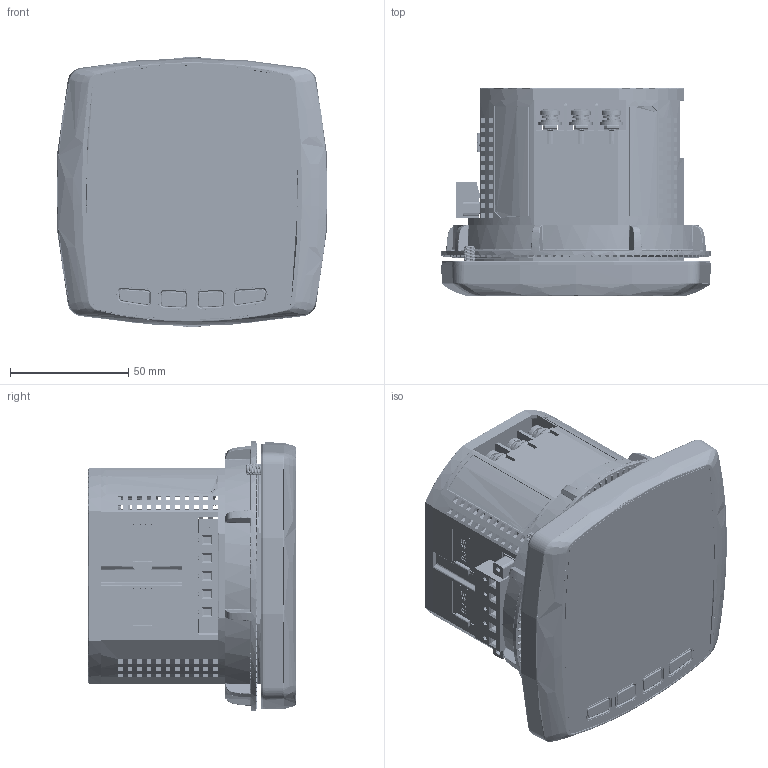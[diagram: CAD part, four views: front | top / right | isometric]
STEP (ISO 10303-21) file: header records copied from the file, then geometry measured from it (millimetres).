
FILE_DESCRIPTION(/* description */ (''),/* implementation_level */ '2;1');
FILE_NAME(/* name */ 'A70N4Y~S',/* time_stamp */ '2022-11-21T14:25:20+09:00',/* author */ (''),/* organization */ (''),/* preprocessor_version */ 'ST-DEVELOPER v15',/* originating_system */ '',/* authorisation */ '');
FILE_SCHEMA (('AUTOMOTIVE_DESIGN'));
Products named in the file (78): Document; Bracket; 블록 12; screw-3x6-flt; 블록 51; countersunk flat cross head screw_ks_KS 1023 FC- M3 x 8-N; 블록 33; Seal; 블록 34; Case-Cap Ass''y; Back-Sticker; 블록 36; Case-Cap; 블록 08; ANSI Boss; 블록 14; rubber-cap-rj45; 블록 10; Window Ass''y; Tape-Window(3M 4303WP, t=0.25mm); 블록 50; Window; 블록 05; binding cross head screw_ks_KS 1023 BC - M2 x 6-N; 블록 46; Case-Front1; Case-Front; 블록 39; insert-M3X7.9; 블록 47; Button Ass''y; Rubber-Button; 블록 52; Tape-Button(YT56CH,t=0.14mm); 블록 01; binding cross head screw_ks_KS 1023 BC - M2.6 x 5-N; 블록 03; screw-special-m4x09; 블록 31; 블록 32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
Assembly tree (119 placements, depth 4):
  Document
    Bracket
      블록 12
    screw-3x6-flt  x4
      블록 51
    countersunk flat cross head screw_ks_KS 1023 FC- M3 x 8-N  x2
      블록 33
    Seal
      블록 34
    Case-Cap Ass''y
      Back-Sticker
        블록 36
      Case-Cap
        블록 08
    ANSI Boss
      블록 14
    rubber-cap-rj45  x2
      블록 10
    Window Ass''y
      Tape-Window(3M 4303WP, t=0.25mm)
        블록 50
      Window
        블록 05
    binding cross head screw_ks_KS 1023 BC - M2 x 6-N  x2
      블록 46
    Case-Front1
      Case-Front
        블록 39
      insert-M3X7.9  x5
        블록 47
    Button Ass''y
      Rubber-Button
        블록 52
      Tape-Button(YT56CH,t=0.14mm)
        블록 01
    binding cross head screw_ks_KS 1023 BC - M2.6 x 5-N
      블록 03
    screw-special-m4x09  x6
      블록 31
      블록 32
    pan cross head_ks_KS 1023 PC- M3 x 25-N  x4
      블록 15
    Busbar  x3
      블록 41
    Washer M4  x6
      블록 48
    cap-connector
      블록 49
    pan cross head_ks_KS 1023 PC- M3 x 6-N
      블록 54
    경고 Sticker
      블록 57
    Serial Sticker
      블록 02
    Case-Rear-BUSBAR
      블록 09
    Back-Sticker
      블록 36
    insert-M4X4.5  x6
      블록 35
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Bounding box: 114.25 x 87.7 x 113.99 mm (x, y, z)
Surface area: 239067.9 mm2 (no closed solid volume)
Topology: 0 solids, 14180 shells, 14190 faces, 75246 edges, 75194 vertices
Faces by surface type: bspline 8409, plane 5781
Entity records: 1108378 total; most frequent: CARTESIAN_POINT 764950, ORIENTED_EDGE 50844, EDGE_CURVE 50839, VERTEX_POINT 50834, B_SPLINE_CURVE_WITH_KNOTS 35361, EDGE_LOOP 10702, ADVANCED_FACE 9857, FACE_OUTER_BOUND 9857
